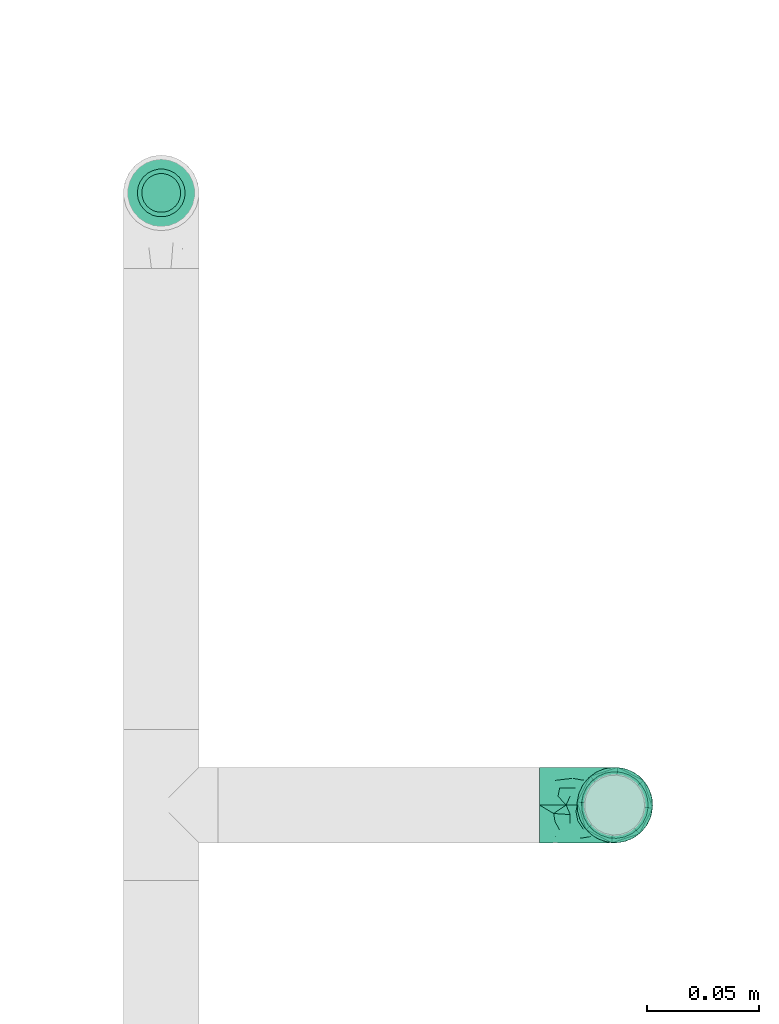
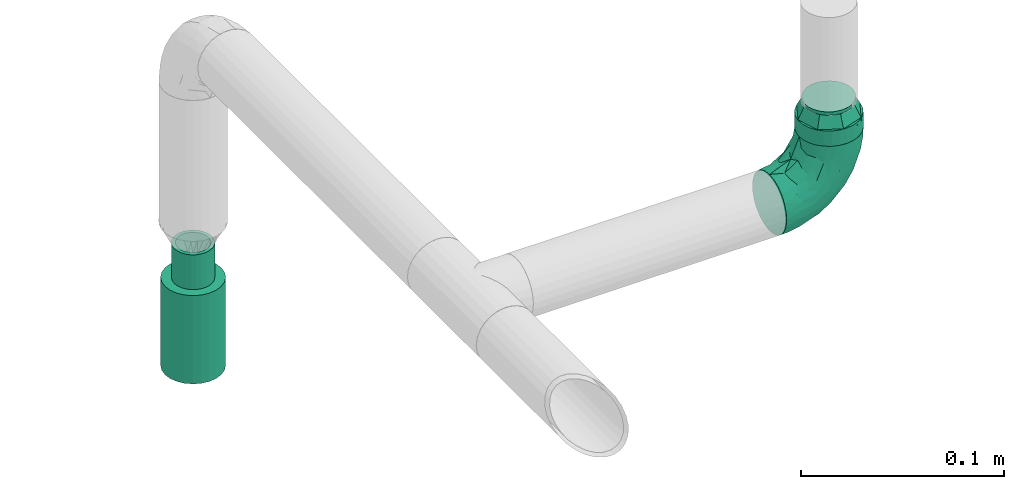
# One storey, part 38 of 43: 2 flow fittings, 2 flow segments, 1 flow terminal.
"""IFC2X3 building model written with IfcOpenShell, lengths in millimetres."""

from ifc_helpers import new_model, entity, si_unit, converted_unit, derived_unit, direction, frame, origin_with_axes, origin_2d_with_axis, place, context, subcontext, project, spatial, hollow_circle, extrude, open_shell, surface_model, source, transform, mapped, type_object, element, save


model = new_model("IFC2X3")

# Units and contexts
model_context = context("Model", 3, precision=0.01, world=frame((0.0, 4.29681676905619e-09, 0.0)), true_north=direction((4.01073788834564e-13, 1.0)))
plan_context = context("Plan", 3, precision=0.01, world=frame((0.0, 4.29681676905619e-09, 0.0)), true_north=direction((4.01073788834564e-13, 1.0)))
body_context = subcontext(model_context, "Body", "Model", "MODEL_VIEW")
ifc_project = project(units=[converted_unit("PLANEANGLEUNIT", "DEGREE", entity("IfcPositiveLengthMeasure", 0.0174532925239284), si_unit("PLANEANGLEUNIT", "RADIAN"), dimensions=[0, 0, 0, 0, 0, 0, 0]), si_unit("AREAUNIT", "SQUARE_METRE"), si_unit("LENGTHUNIT", "METRE", prefix="MILLI"), si_unit("MASSUNIT", "GRAM", prefix="KILO"), si_unit("POWERUNIT", "WATT"), si_unit("PRESSUREUNIT", "PASCAL"), si_unit("FORCEUNIT", "NEWTON", prefix="KILO"), si_unit("ELECTRICVOLTAGEUNIT", "VOLT"), si_unit("ELECTRICCURRENTUNIT", "AMPERE"), si_unit("THERMODYNAMICTEMPERATUREUNIT", "DEGREE_CELSIUS"), si_unit("TIMEUNIT", "SECOND"), si_unit("VOLUMEUNIT", "CUBIC_METRE"), derived_unit("LINEARVELOCITYUNIT", [(si_unit("LENGTHUNIT", "METRE"), 1), (si_unit("TIMEUNIT", "SECOND"), -1)]), derived_unit("VOLUMETRICFLOWRATEUNIT", [(si_unit("VOLUMEUNIT", "CUBIC_METRE"), 1), (si_unit("TIMEUNIT", "SECOND"), -1)]), derived_unit("THERMALTRANSMITTANCEUNIT", [(si_unit("POWERUNIT", "WATT"), 1), (si_unit("THERMODYNAMICTEMPERATUREUNIT", "KELVIN"), -1), (si_unit("AREAUNIT", "SQUARE_METRE"), -1)]), derived_unit("SOUNDPRESSUREUNIT", [(si_unit("PRESSUREUNIT", "PASCAL"), 1)])], contexts=[model_context, plan_context])

# Site, building, storey
site_placement = place(None, frame((0.0, -4.29681676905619e-09, 0.0), z_axis=(0.0, 0.0, 1.0), x_axis=(1.0, 0.0, 0.0)))
site = spatial("IfcSite", under=ifc_project, at=site_placement, CompositionType="ELEMENT")
building_placement = place(site_placement, frame((0.0, 4.29681676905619e-09, 0.0), z_axis=(0.0, 0.0, 1.0), x_axis=(1.0, 0.0, 0.0)))
building = spatial("IfcBuilding", under=site, at=building_placement, Name="mc-building", CompositionType="ELEMENT")
storey_placement = place(building_placement, frame((0.0, 0.0, 210900.0), z_axis=(0.0, 0.0, 1.0), x_axis=(1.0, 0.0, 0.0)))
storey = spatial("IfcBuildingStorey", under=building, at=storey_placement, Name="Nivå F", CompositionType="ELEMENT", Elevation=210900.0)

# Flow fittings
pipe_fitting_type_1 = type_object("IfcPipeFittingType", Name="magi_pipe_fe_elbow_short_001", PredefinedType="BEND")
shared_shape_1 = source(origin_with_axes(), body_context, "Body", "SurfaceModel", [
    surface_model("IfcShellBasedSurfaceModel", [(-33.8, 4.37404, -16.32415), (-33.8, 0.0, -16.9), (-33.8, 11.9501, -11.9501), (-33.8, 8.45, -14.63583), (-33.8, 16.32415, -4.37404), (-33.8, 14.63583, -8.45), (-33.8, -14.63583, -8.45), (-33.8, -16.32415, -4.37404), (-33.8, -8.45, 14.63583), (-33.8, -11.9501, -11.9501), (-33.8, -8.45, -14.63583), (-33.8, -4.37404, -16.32415), (-33.8, -16.9, 0.0), (-33.8, -16.32415, 4.37404), (-33.8, 11.9501, 11.9501), (-33.8, 14.63583, 8.45), (-33.8, 16.32415, 4.37404), (-33.8, 4.37404, 16.32415), (-33.8, 8.45, 14.63583), (-33.8, -14.63583, 8.45), (-33.8, -11.9501, 11.9501), (-33.8, -4.37404, 16.32415), (-33.8, 0.0, 16.9), (-33.8, 16.9, 0.0), (-11.9501, 33.8, -11.9501), (0.0, 33.8, -16.9), (-4.37404, 33.8, -16.32415), (-8.45, 33.8, -14.63583), (-14.63583, 33.8, -8.45), (-16.32415, 33.8, -4.37404), (14.63583, 33.8, -8.45), (8.45, 33.8, 14.63583), (16.32415, 33.8, -4.37404), (8.45, 33.8, -14.63583), (11.9501, 33.8, -11.9501), (4.37404, 33.8, -16.32415), (16.32415, 33.8, 4.37404), (16.9, 33.8, 0.0), (-11.9501, 33.8, 11.9501), (-16.32415, 33.8, 4.37404), (-14.63583, 33.8, 8.45), (-8.45, 33.8, 14.63583), (-4.37404, 33.8, 16.32415), (11.9501, 33.8, 11.9501), (14.63583, 33.8, 8.45), (0.0, 33.8, 16.9), (4.37404, 33.8, 16.32415), (-16.9, 33.8, 0.0), (-24.79389, -13.12945, 9.48721), (-22.19287, -9.75018, 12.59315), (-24.09897, -14.97035, 0.0), (-14.93934, -10.76256, 8.5297), (-22.46095, -14.75051, 5.27077), (14.75051, 22.46094, 5.27077), (11.9251, 13.23888, 4.33236), (13.04069, 14.39795, 0.0), (7.71387, 13.68847, 11.55891), (9.75018, 22.19287, 12.59315), (4.10169, 13.0571, 14.04018), (-24.84007, -6.39063, 15.2048), (-25.81779, -2.23879, 16.61097), (-23.66549, 2.59054, 16.87119), (-26.50418, 14.06512, 11.08152), (-24.21253, 17.66365, 7.72657), (-29.58514, 15.86957, 7.00283), (-6.17382, -7.5455, 0.0), (-13.23888, -11.9251, 4.33236), (-14.39795, -13.04069, 0.0), (-17.81434, 18.87373, 11.97104), (-6.30846, 29.15138, 15.82987), (-2.31622, 25.28002, 16.85849), (-29.23923, 10.23435, 13.77053), (-1.45439, -2.85688, 7.61475), (-0.28326, 0.34872, 10.09509), (-5.74484, -4.04709, 10.4122), (-4.41137, 11.31918, 16.59407), (-8.39727, 3.10034, 15.7812), (-1.72649, 9.1306, 15.53089), (-17.39909, 24.75344, 7.64977), (-26.19233, 20.0512, 0.0), (-28.14518, 17.29657, 4.25857), (-26.05147, 6.6281, 15.96447), (-5.87354, 16.61944, 16.86968), (-12.51807, 12.51807, 16.48937), (-10.06312, 7.38516, 16.81295), (-3.01882, 3.01882, 13.81718), (-13.0571, -4.10169, 14.04018), (-16.82553, -0.15166, 16.38038), (10.76256, 14.93934, 8.5297), (13.12945, 24.79389, 9.48721), (6.39063, 24.84007, 15.2048), (2.23879, 25.81779, 16.61097), (-13.68847, -7.71387, 11.55891), (14.97035, 24.09897, 0.0), (-7.30894, 22.89991, 16.09489), (-10.67958, 26.17414, 14.008), (-12.78295, 18.26924, 15.06066), (-13.88562, 22.45231, 12.93244), (-18.04944, 15.16501, 14.04434), (-23.11658, 20.08178, 4.02986), (-21.84989, 21.84989, 0.0), (-18.55817, 25.48277, 3.93065), (-13.95142, 26.94732, 11.03289), (-18.57098, 7.23906, 16.59756), (-16.58335, 4.14122, 16.89279), (-17.96666, 11.46709, 15.63151), (-9.84453, 17.54304, 16.18938), (0.15166, 16.82553, 16.38038), (-23.27207, 11.47201, 14.23154), (3.84842, 5.86994, 10.70473), (-8.0212, -7.54413, 7.93275), (1.00345, -2.19508, 4.57414), (5.13203, 3.01004, 5.90201), (5.24161, 1.7543, 2.53265), (8.70457, 7.04947, 3.99182), (-20.0512, 26.19233, 0.0), (8.4852, 8.76699, 7.09296), (-4.55488, -6.72064, 4.90681), (2.05031, -2.05031, 0.0), (7.5455, 6.17382, 0.0), (-26.75399, 2.1369, -16.845), (-14.61995, 24.73803, -11.27736), (-28.45274, -13.45335, -9.81895), (-26.00469, 6.63555, -15.96645), (-23.06726, 20.04573, -4.26202), (-13.80647, -4.26506, -14.17873), (-14.67501, -0.21081, -16.07388), (-6.7902, -0.2828, -13.8478), (-24.53586, 11.08096, -14.13417), (-26.72048, 14.00837, -11.05776), (10.0967, 24.44989, -12.75976), (5.83237, 21.40218, -15.03047), (6.66249, 28.54238, -15.38093), (-20.38182, 15.48705, -12.74596), (-15.65186, 19.64213, -13.01327), (-12.03528, 20.66498, -14.67665), (-15.61907, 15.61906, -14.83879), (-25.56551, -15.26206, 0.0), (-24.65452, -15.12934, -5.50955), (12.53268, 21.23441, -9.15363), (13.45335, 28.45274, -9.81895), (15.12934, 24.65452, -5.50955), (-7.35442, -8.31014, -5.65563), (-15.67504, -12.54494, -5.54878), (-24.44989, -10.0967, -12.75976), (0.16522, 0.41303, -9.71728), (-5.70658, -5.33066, -8.89288), (-5.13869, -2.37198, -11.53565), (-21.23441, -12.53268, -9.15363), (0.71146, 7.93863, -14.09382), (0.21081, 14.67501, -16.07388), (3.49291, 14.42772, -14.76381), (-24.89911, -2.13088, -16.591), (-28.54238, -6.66249, -15.38093), (-18.44386, -7.71663, -13.26957), (2.13088, 24.89911, -16.591), (-28.64342, 17.44413, -2.89318), (1.70017, -1.28722, -5.09504), (-16.57067, 26.81947, -7.36596), (-17.69055, 27.4263, -3.76405), (-12.89279, -9.7522, -8.66343), (-5.96611, 5.96611, -15.95814), (-20.53709, 20.09345, -8.28985), (-2.1369, 26.75399, -16.845), (-6.89872, 24.58781, -16.02578), (-10.60739, 26.53157, -13.98044), (-21.40218, -5.83237, -15.03047), (2.93192, 5.89627, -11.55917), (6.89393, 12.61842, -11.82233), (5.58056, 5.95325, -8.79455), (-3.99512, 18.61798, -16.89635), (-9.1383, 9.86148, -16.89041), (-9.99983, 16.02119, -16.39699), (-16.68576, 9.78031, -16.34199), (-27.01915, 16.61158, -7.12979), (15.26206, 25.56551, 0.0), (-18.61798, 3.99512, -16.89635), (-19.37495, 27.82495, 0.0), (9.7522, 12.89279, -8.66343), (-12.61842, -6.89393, -11.82233), (8.31014, 7.35442, -5.65563), (-18.84705, 19.14018, -10.96545), (12.54494, 15.67504, -5.54878)], [open_shell([[[0, 1, 2]], [[3, 0, 2]], [[4, 5, 2]], [[6, 2, 1]], [[2, 7, 8]], [[9, 6, 10]], [[1, 11, 10]], [[10, 6, 1]], [[2, 6, 7]], [[12, 13, 7]], [[4, 2, 14]], [[4, 15, 16]], [[4, 14, 15]], [[17, 18, 14]], [[14, 2, 8]], [[17, 14, 8]], [[19, 20, 13]], [[20, 7, 13]], [[21, 22, 8]], [[20, 8, 7]], [[8, 22, 17]], [[4, 16, 23]], [[24, 25, 26]], [[24, 26, 27]], [[24, 28, 29]], [[25, 24, 30]], [[31, 32, 24]], [[33, 30, 34]], [[33, 35, 25]], [[25, 30, 33]], [[32, 30, 24]], [[32, 36, 37]], [[38, 24, 29]], [[39, 40, 29]], [[40, 38, 29]], [[38, 41, 42]], [[38, 31, 24]], [[31, 38, 42]], [[36, 43, 44]], [[36, 32, 43]], [[31, 45, 46]], [[32, 31, 43]], [[42, 45, 31]], [[39, 29, 47]], [[20, 48, 49]], [[13, 12, 50]], [[51, 48, 52]], [[53, 54, 55]], [[48, 20, 19]], [[13, 52, 19]], [[56, 57, 58]], [[49, 8, 20]], [[49, 59, 8]], [[22, 60, 61]], [[62, 63, 64]], [[65, 66, 67]], [[57, 43, 31]], [[62, 68, 63]], [[42, 69, 70]], [[18, 71, 14]], [[21, 60, 22]], [[72, 73, 74]], [[75, 76, 77]], [[14, 62, 15]], [[40, 39, 78]], [[79, 23, 80]], [[64, 16, 15]], [[22, 61, 17]], [[17, 81, 18]], [[82, 83, 84]], [[74, 85, 86]], [[59, 86, 87]], [[88, 89, 57]], [[90, 31, 46]], [[44, 53, 36]], [[46, 45, 91]], [[54, 53, 88]], [[44, 89, 53]], [[92, 86, 49]], [[89, 44, 43]], [[8, 59, 21]], [[53, 55, 93]], [[93, 36, 53]], [[66, 52, 67]], [[94, 82, 70]], [[95, 96, 94]], [[97, 98, 96]], [[79, 99, 100]], [[41, 38, 95]], [[101, 100, 99]], [[68, 78, 63]], [[42, 41, 69]], [[23, 16, 80]], [[95, 94, 69]], [[78, 101, 99]], [[38, 102, 95]], [[70, 45, 42]], [[97, 95, 102]], [[13, 50, 52]], [[90, 57, 31]], [[57, 90, 58]], [[81, 17, 61]], [[103, 104, 84]], [[105, 81, 103]], [[38, 40, 102]], [[106, 96, 83]], [[94, 106, 82]], [[91, 70, 107]], [[71, 62, 14]], [[62, 108, 98]], [[86, 59, 49]], [[67, 52, 50]], [[60, 59, 87]], [[92, 49, 51]], [[86, 85, 76]], [[91, 90, 46]], [[37, 36, 93]], [[107, 77, 58]], [[107, 58, 90]], [[58, 85, 109]], [[110, 74, 92]], [[72, 74, 110]], [[66, 51, 52]], [[72, 111, 112]], [[113, 114, 112]], [[56, 88, 57]], [[52, 48, 19]], [[49, 48, 51]], [[57, 89, 43]], [[53, 89, 88]], [[103, 81, 61]], [[71, 81, 108]], [[16, 64, 80]], [[63, 78, 99]], [[47, 115, 101]], [[101, 115, 100]], [[40, 78, 102]], [[68, 102, 78]], [[97, 96, 95]], [[105, 98, 108]], [[103, 84, 83]], [[107, 70, 82]], [[76, 84, 87]], [[82, 84, 75]], [[70, 91, 45]], [[90, 91, 107]], [[59, 60, 21]], [[61, 60, 87]], [[73, 85, 74]], [[109, 112, 116]], [[103, 61, 104]], [[105, 103, 83]], [[96, 105, 83]], [[81, 105, 108]], [[96, 98, 105]], [[62, 98, 68]], [[61, 87, 104]], [[87, 84, 104]], [[86, 76, 87]], [[77, 76, 85]], [[58, 77, 85]], [[75, 77, 107]], [[82, 75, 107]], [[76, 75, 84]], [[81, 71, 18]], [[62, 71, 108]], [[95, 69, 41]], [[70, 69, 94]], [[62, 64, 15]], [[80, 63, 99]], [[63, 80, 64]], [[80, 99, 79]], [[66, 65, 117]], [[110, 66, 117]], [[112, 114, 116]], [[118, 117, 65]], [[110, 92, 51]], [[112, 111, 113]], [[119, 55, 54]], [[74, 86, 92]], [[58, 109, 56]], [[116, 56, 109]], [[66, 110, 51]], [[72, 110, 117]], [[111, 72, 117]], [[73, 112, 109]], [[117, 118, 111]], [[113, 111, 118]], [[118, 119, 113]], [[114, 119, 54]], [[119, 114, 113]], [[116, 54, 88]], [[54, 116, 114]], [[116, 88, 56]], [[112, 73, 72]], [[85, 73, 109]], [[78, 39, 101]], [[47, 101, 39]], [[102, 68, 97]], [[97, 68, 98]], [[82, 106, 83]], [[94, 96, 106]], [[0, 120, 1]], [[28, 24, 121]], [[9, 122, 6]], [[3, 123, 0]], [[100, 124, 79]], [[125, 126, 127]], [[128, 2, 129]], [[130, 131, 132]], [[128, 129, 133]], [[134, 135, 136]], [[128, 3, 2]], [[67, 137, 138]], [[139, 140, 141]], [[138, 7, 6]], [[142, 65, 143]], [[144, 9, 10]], [[145, 146, 147]], [[143, 138, 148]], [[149, 150, 151]], [[152, 11, 1]], [[10, 153, 144]], [[148, 144, 154]], [[153, 10, 11]], [[35, 155, 25]], [[23, 79, 156]], [[146, 157, 142]], [[158, 159, 29]], [[143, 160, 142]], [[161, 150, 149]], [[29, 28, 158]], [[121, 162, 158]], [[33, 34, 130]], [[25, 163, 26]], [[26, 163, 164]], [[140, 34, 30]], [[24, 27, 165]], [[124, 159, 162]], [[155, 35, 132]], [[153, 152, 166]], [[123, 3, 128]], [[167, 168, 169]], [[170, 155, 150]], [[26, 164, 27]], [[132, 35, 33]], [[140, 130, 34]], [[166, 152, 126]], [[133, 134, 136]], [[2, 5, 129]], [[168, 131, 130]], [[30, 32, 141]], [[170, 171, 172]], [[173, 123, 128]], [[156, 174, 4]], [[165, 27, 164]], [[172, 164, 170]], [[134, 165, 135]], [[122, 138, 6]], [[137, 12, 7]], [[32, 37, 175]], [[168, 130, 139]], [[150, 155, 131]], [[163, 155, 170]], [[151, 168, 149]], [[150, 161, 171]], [[166, 125, 154]], [[122, 144, 148]], [[120, 152, 1]], [[176, 171, 126]], [[176, 126, 152]], [[126, 161, 127]], [[160, 143, 148]], [[137, 7, 138]], [[32, 175, 141]], [[55, 141, 175]], [[174, 129, 5]], [[128, 133, 136]], [[173, 128, 136]], [[120, 123, 176]], [[121, 158, 28]], [[159, 100, 177]], [[164, 172, 135]], [[121, 24, 165]], [[159, 47, 29]], [[79, 124, 156]], [[124, 162, 174]], [[159, 124, 100]], [[178, 169, 168]], [[127, 161, 149]], [[145, 169, 157]], [[146, 142, 160]], [[127, 149, 167]], [[127, 179, 125]], [[129, 174, 162]], [[5, 4, 174]], [[157, 65, 142]], [[67, 138, 143]], [[123, 120, 0]], [[152, 120, 176]], [[155, 163, 25]], [[164, 163, 170]], [[170, 150, 171]], [[173, 136, 172]], [[126, 171, 161]], [[173, 171, 176]], [[171, 173, 172]], [[123, 173, 176]], [[148, 179, 160]], [[127, 147, 179]], [[179, 146, 160]], [[157, 146, 145]], [[169, 178, 180]], [[168, 139, 178]], [[157, 169, 180]], [[169, 145, 167]], [[167, 145, 147]], [[149, 168, 167]], [[162, 181, 129]], [[181, 121, 134]], [[179, 147, 146]], [[167, 147, 127]], [[181, 134, 133]], [[165, 134, 121]], [[164, 135, 165]], [[172, 136, 135]], [[129, 181, 133]], [[121, 181, 162]], [[159, 158, 162]], [[47, 159, 177]], [[174, 156, 124]], [[23, 156, 4]], [[130, 132, 33]], [[155, 132, 131]], [[141, 140, 30]], [[130, 140, 139]], [[152, 153, 11]], [[144, 153, 166]], [[144, 122, 9]], [[138, 122, 148]], [[150, 131, 151]], [[157, 119, 118]], [[67, 143, 65]], [[168, 151, 131]], [[119, 157, 180]], [[157, 118, 65]], [[154, 125, 179]], [[126, 125, 166]], [[148, 154, 179]], [[166, 154, 144]], [[139, 182, 178]], [[141, 182, 139]], [[178, 182, 180]], [[182, 55, 119]], [[141, 55, 182]], [[182, 119, 180]]])]),
])
flow_fitting_1_placement = place(storey_placement, frame((609676.69057, 697917.47996, 2660.0), z_axis=(0.0, 1.0, 0.0), x_axis=(0.0, 0.0, -1.0)))
element("IfcFlowFitting", 1, at=flow_fitting_1_placement, inside=storey, type_object=pipe_fitting_type_1, Name="magi_pipe_fe_elbow_short_001", context=body_context, shape_type="MappedRepresentation", body=[
    mapped(shared_shape_1, transform((0.0, 0.0, 0.0), scale=1.0)),
])
pipe_fitting_type_2 = type_object("IfcPipeFittingType", Name="magi_pipe_fe_reducer_centric_short_NOR", PredefinedType="TRANSITION")
shared_shape_2 = source(origin_with_axes(), body_context, "Body", "SurfaceModel", [
    surface_model("IfcShellBasedSurfaceModel", [(-2.0, 11.9501, 11.9501), (-2.0, 0.0, 16.9), (-2.0, 4.37404, 16.32415), (-2.0, 8.45, 14.63583), (-2.0, 14.63583, 8.45), (-2.0, 16.32415, 4.37404), (-2.0, -16.32415, 4.37404), (-2.0, -8.45, 14.63583), (-2.0, -14.63583, 8.45), (-2.0, -11.9501, 11.9501), (-2.0, -4.37404, 16.32415), (-2.0, -16.32415, -4.37404), (-2.0, -16.9, 0.0), (-2.0, -8.45, -14.63583), (-2.0, 16.32415, -4.37404), (-2.0, 11.9501, -11.9501), (-2.0, 14.63583, -8.45), (-2.0, 8.45, -14.63583), (-2.0, 4.37404, -16.32415), (-2.0, 0.0, -16.9), (-2.0, -11.9501, -11.9501), (-2.0, -14.63583, -8.45), (-2.0, -4.37404, -16.32415), (-2.0, 16.9, 0.0), (0.0, 4.37404, -16.32415), (0.0, 8.45, -14.63583), (0.0, 11.9501, -11.9501), (0.0, 0.0, -16.9), (0.0, 16.32415, -4.37404), (0.0, 16.32415, 4.37404), (0.0, 14.63583, -8.45), (0.0, -8.45, -14.63583), (0.0, -4.37404, -16.32415), (0.0, -11.9501, -11.9501), (0.0, -16.32415, -4.37404), (0.0, -14.63583, -8.45), (0.0, -16.32415, 4.37404), (0.0, 16.9, 0.0), (0.0, 14.63583, 8.45), (0.0, 11.9501, 11.9501), (0.0, 4.37404, 16.32415), (0.0, 8.45, 14.63583), (0.0, 0.0, 16.9), (0.0, -14.63583, 8.45), (0.0, -16.9, 0.0), (0.0, -8.45, 14.63583), (0.0, -11.9501, 11.9501), (0.0, -4.37404, 16.32415), (9.0, 12.94341, -3.46818), (9.0, 3.46818, -12.94341), (9.0, 6.7, -11.60474), (9.0, 9.47523, -9.47523), (9.0, -6.7, -11.60474), (9.0, -12.94341, 3.46818), (9.0, 11.60474, -6.7), (9.0, 0.0, -13.4), (9.0, -3.46818, -12.94341), (9.0, -9.47523, -9.47523), (9.0, -12.94341, -3.46818), (9.0, -11.60474, -6.7), (9.0, 13.4, 0.0), (9.0, 12.94341, 3.46818), (9.0, 11.60474, 6.7), (9.0, 9.47523, 9.47523), (9.0, 0.0, 13.4), (9.0, 6.7, 11.60474), (9.0, 3.46818, 12.94341), (9.0, -6.7, 11.60474), (9.0, -9.47523, 9.47523), (9.0, -11.60474, 6.7), (9.0, -13.4, 0.0), (9.0, -3.46818, 12.94341), (7.0, 0.0, 13.4), (7.0, 3.46818, 12.94341), (7.0, 6.7, 11.60474), (7.0, -3.46818, 12.94341), (7.0, 9.47523, 9.47523), (7.0, 11.60474, 6.7), (7.0, 12.94341, 3.46818), (7.0, -12.94341, 3.46818), (7.0, -9.47523, 9.47523), (7.0, -6.7, 11.60474), (7.0, -11.60474, 6.7), (7.0, -12.94341, -3.46818), (7.0, -13.4, 0.0), (7.0, -6.7, -11.60474), (7.0, 12.94341, -3.46818), (7.0, 9.47523, -9.47523), (7.0, 11.60474, -6.7), (7.0, 6.7, -11.60474), (7.0, 3.46818, -12.94341), (7.0, -9.47523, -9.47523), (7.0, -11.60474, -6.7), (7.0, 0.0, -13.4), (7.0, -3.46818, -12.94341), (7.0, 13.4, 0.0), (0.0, 13.18758, -8.96258), (0.0, 14.42505, -5.97505), (7.0, 10.491, -7.02294), (7.0, 11.50677, -4.57065), (0.0, 15.66253, -2.98753), (7.0, 12.45339, -2.28533), (0.0, 2.98753, -15.66253), (0.0, 5.97505, -14.42505), (0.0, 8.96258, -13.18758), (7.0, 4.73762, -11.43761), (7.0, 7.10642, -10.45642), (7.0, 2.36881, -12.41881), (0.0, -14.42505, -5.97505), (7.0, -11.43761, -4.73762), (7.0, -12.41881, -2.36881), (7.0, -2.36881, -12.41881), (7.0, -10.45642, -7.10642), (0.0, -15.70614, -2.88224), (0.0, -13.18758, -8.96258), (7.0, -4.73762, -11.43761), (7.0, -7.10642, -10.45642), (0.0, -5.97505, -14.42505), (0.0, -2.98753, -15.66253), (0.0, -8.96258, -13.18758), (0.0, -13.18758, 8.96258), (0.0, -14.42505, 5.97505), (7.0, -10.491, 7.02294), (7.0, -11.50677, 4.57065), (0.0, -15.66253, 2.98753), (7.0, -12.45339, 2.28533), (0.0, -2.98753, 15.66253), (0.0, -5.97505, 14.42505), (0.0, -8.96258, 13.18758), (7.0, -4.73762, 11.43761), (7.0, -7.10642, 10.45642), (7.0, -2.36881, 12.41881), (0.0, 14.42505, 5.97505), (7.0, 11.43761, 4.73762), (7.0, 12.41881, 2.36881), (7.0, 2.36881, 12.41881), (7.0, 10.45642, 7.10642), (0.0, 15.70614, 2.88224), (0.0, 13.18758, 8.96258), (7.0, 4.73762, 11.43761), (7.0, 7.10642, 10.45642), (0.0, 5.97505, 14.42505), (0.0, 2.98753, 15.66253), (0.0, 8.96258, 13.18758)], [open_shell([[[0, 1, 2]], [[0, 2, 3]], [[0, 4, 5]], [[0, 5, 1]], [[1, 5, 6]], [[7, 8, 9]], [[7, 10, 1]], [[8, 7, 1]], [[1, 6, 8]], [[6, 11, 12]], [[6, 5, 13]], [[5, 14, 15]], [[15, 14, 16]], [[15, 17, 18]], [[13, 5, 15]], [[19, 15, 18]], [[11, 20, 21]], [[20, 11, 13]], [[13, 19, 22]], [[11, 6, 13]], [[15, 19, 13]], [[5, 23, 14]], [[24, 25, 26]], [[27, 24, 26]], [[26, 28, 29]], [[28, 26, 30]], [[26, 29, 31]], [[27, 31, 32]], [[27, 26, 31]], [[33, 34, 35]], [[34, 33, 31]], [[31, 36, 34]], [[29, 28, 37]], [[29, 38, 39]], [[29, 39, 40]], [[40, 36, 31]], [[40, 39, 41]], [[36, 40, 42]], [[42, 43, 36]], [[44, 34, 36]], [[43, 45, 46]], [[43, 42, 45]], [[45, 42, 47]], [[31, 29, 40]], [[11, 34, 12]], [[21, 35, 11]], [[31, 20, 13]], [[21, 20, 33]], [[32, 13, 22]], [[11, 35, 34]], [[34, 44, 12]], [[32, 31, 13]], [[33, 20, 31]], [[33, 35, 21]], [[27, 32, 22]], [[22, 19, 27]], [[18, 24, 19]], [[17, 25, 18]], [[30, 15, 16]], [[17, 15, 26]], [[28, 16, 14]], [[17, 26, 25]], [[25, 24, 18]], [[37, 28, 14]], [[30, 16, 28]], [[30, 26, 15]], [[23, 37, 14]], [[19, 24, 27]], [[5, 29, 23]], [[4, 38, 5]], [[41, 0, 3]], [[4, 0, 39]], [[40, 3, 2]], [[5, 38, 29]], [[29, 37, 23]], [[40, 41, 3]], [[39, 0, 41]], [[39, 38, 4]], [[42, 40, 2]], [[2, 1, 42]], [[10, 47, 1]], [[7, 45, 10]], [[43, 9, 8]], [[7, 9, 46]], [[36, 8, 6]], [[7, 46, 45]], [[45, 47, 10]], [[44, 36, 6]], [[43, 8, 36]], [[43, 46, 9]], [[12, 44, 6]], [[1, 47, 42]], [[33, 44, 27]], [[42, 39, 46]], [[39, 27, 44]], [[44, 46, 39]], [[48, 49, 50]], [[48, 50, 51]], [[52, 49, 53]], [[48, 51, 54]], [[49, 48, 53]], [[55, 52, 56]], [[55, 49, 52]], [[57, 58, 59]], [[53, 58, 57]], [[57, 52, 53]], [[48, 60, 53]], [[61, 62, 63]], [[61, 63, 64]], [[65, 66, 64]], [[65, 64, 63]], [[61, 64, 67]], [[53, 68, 69]], [[70, 58, 53]], [[53, 67, 68]], [[53, 61, 67]], [[71, 67, 64]], [[53, 60, 61]], [[72, 73, 74]], [[75, 72, 74]], [[76, 77, 78]], [[74, 76, 75]], [[78, 79, 76]], [[75, 80, 81]], [[80, 75, 79]], [[80, 79, 82]], [[75, 76, 79]], [[79, 83, 84]], [[79, 78, 85]], [[86, 87, 78]], [[87, 86, 88]], [[89, 85, 78]], [[78, 87, 89]], [[85, 89, 90]], [[83, 91, 92]], [[83, 79, 91]], [[85, 93, 94]], [[79, 85, 91]], [[90, 93, 85]], [[95, 86, 78]], [[83, 58, 84]], [[92, 59, 83]], [[52, 91, 85]], [[92, 91, 57]], [[56, 85, 94]], [[83, 59, 58]], [[58, 70, 84]], [[56, 52, 85]], [[57, 91, 52]], [[57, 59, 92]], [[55, 56, 94]], [[94, 93, 55]], [[90, 49, 93]], [[89, 50, 90]], [[54, 87, 88]], [[89, 87, 51]], [[48, 88, 86]], [[89, 51, 50]], [[50, 49, 90]], [[60, 48, 86]], [[54, 88, 48]], [[54, 51, 87]], [[95, 60, 86]], [[93, 49, 55]], [[78, 61, 95]], [[77, 62, 78]], [[65, 76, 74]], [[77, 76, 63]], [[66, 74, 73]], [[78, 62, 61]], [[61, 60, 95]], [[66, 65, 74]], [[63, 76, 65]], [[63, 62, 77]], [[64, 66, 73]], [[73, 72, 64]], [[75, 71, 72]], [[81, 67, 75]], [[69, 80, 82]], [[81, 80, 68]], [[53, 82, 79]], [[81, 68, 67]], [[67, 71, 75]], [[70, 53, 79]], [[69, 82, 53]], [[69, 68, 80]], [[84, 70, 79]], [[72, 71, 64]], [[72, 80, 95]], [[95, 76, 72]], [[80, 91, 95]], [[91, 93, 95]], [[87, 95, 93]], [[80, 84, 91]], [[26, 27, 39]], [[39, 37, 26]], [[96, 97, 98]], [[99, 100, 101]], [[37, 95, 101]], [[93, 27, 102]], [[103, 104, 105]], [[104, 26, 106]], [[87, 26, 96]], [[103, 107, 102]], [[108, 109, 110]], [[37, 101, 100]], [[27, 93, 111]], [[112, 33, 91]], [[110, 84, 113]], [[109, 114, 112]], [[33, 112, 114]], [[115, 116, 117]], [[115, 118, 111]], [[93, 102, 107]], [[116, 91, 119]], [[27, 111, 118]], [[97, 99, 98]], [[87, 96, 98]], [[100, 99, 97]], [[26, 87, 106]], [[105, 104, 106]], [[107, 103, 105]], [[84, 44, 113]], [[108, 110, 113]], [[114, 109, 108]], [[91, 33, 119]], [[117, 116, 119]], [[118, 115, 117]], [[120, 121, 122]], [[123, 124, 125]], [[44, 84, 125]], [[72, 42, 126]], [[127, 128, 129]], [[128, 46, 130]], [[80, 46, 120]], [[127, 131, 126]], [[132, 133, 134]], [[44, 125, 124]], [[42, 72, 135]], [[136, 39, 76]], [[134, 95, 137]], [[133, 138, 136]], [[39, 136, 138]], [[139, 140, 141]], [[139, 142, 135]], [[72, 126, 131]], [[140, 76, 143]], [[42, 135, 142]], [[121, 123, 122]], [[80, 120, 122]], [[124, 123, 121]], [[46, 80, 130]], [[129, 128, 130]], [[131, 127, 129]], [[95, 37, 137]], [[132, 134, 137]], [[138, 133, 132]], [[76, 39, 143]], [[141, 140, 143]], [[142, 139, 141]]])]),
])
flow_fitting_2_placement = place(storey_placement, frame((609676.60792, 697917.4865, 2702.99278), z_axis=(0.996846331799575, -0.0788420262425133, 0.00901807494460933), x_axis=(-0.00899000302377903, 0.00071100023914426, 0.999959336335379)))
element("IfcFlowFitting", 2, at=flow_fitting_2_placement, inside=storey, type_object=pipe_fitting_type_2, Name="magi_pipe_fe_reducer_centric_short_NOR", context=body_context, shape_type="MappedRepresentation", body=[
    mapped(shared_shape_2, transform((0.0, 0.0, 0.0), scale=1.0)),
])

# Flow segments
pipe_segment_type = type_object("IfcPipeSegmentType", Name="Stålrør normaltykke", PredefinedType="RIGIDSEGMENT")
shared_shape_3 = source(origin_with_axes(), body_context, "Body", "SweptSolid", [
    extrude(hollow_circle(Radius=16.9, WallThickness=2.0, at=origin_2d_with_axis()), frame((0.0, 0.0, 0.0), z_axis=(1.0, 0.0, 0.0), x_axis=(0.0, 1.0, 0.0)), (0.0, 0.0, 1.0), 9.2),
])
flow_segment_1_placement = place(storey_placement, frame((609676.69057, 697917.47996, 2693.79999999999), z_axis=(0.0788449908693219, 0.996886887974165, 2.98917911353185e-08), x_axis=(-0.00899000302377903, 0.00071100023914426, 0.999959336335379)))
element("IfcFlowSegment", 3, at=flow_segment_1_placement, inside=storey, type_object=pipe_segment_type, Name="Stålrør normaltykke", context=body_context, shape_type="MappedRepresentation", body=[
    mapped(shared_shape_3, transform((0.0, 0.0, 0.0), scale=1.0)),
])
shared_shape_4 = source(origin_with_axes(), body_context, "Body", "SweptSolid", [
    extrude(hollow_circle(Radius=10.7, WallThickness=2.0, at=origin_2d_with_axis()), frame((0.0, 0.0, 0.0), z_axis=(1.0, 0.0, 0.0), x_axis=(0.0, 1.0, 0.0)), (0.0, 0.0, 1.0), 23.8),
])
flow_segment_2_placement = place(storey_placement, frame((609473.7578, 698191.25347, 2505.5), z_axis=(0.0, -1.0, 0.0), x_axis=(0.0, 0.0, 1.0)))
element("IfcFlowSegment", 4, at=flow_segment_2_placement, inside=storey, type_object=pipe_segment_type, Name="Stålrør normaltykke", context=body_context, shape_type="MappedRepresentation", body=[
    mapped(shared_shape_4, transform((0.0, 0.0, 0.0), scale=1.0)),
])

# Flow terminal
fire_suppression_terminal_type = type_object("IfcFireSuppressionTerminalType", Name="SP-15-K80-68DGR-STD-HIMLING", PredefinedType="NOTDEFINED")
shared_shape_5 = source(origin_with_axes(), body_context, "Body", "SurfaceModel", [
    surface_model("IfcShellBasedSurfaceModel", [(4.1411, -15.45481, 53.0), (8.0, -13.85641, 53.0), (11.31371, -11.31371, 53.0), (-8.0, -13.85641, 53.0), (15.45481, -4.1411, 53.0), (16.0, 0.0, 53.0), (13.85641, -8.0, 53.0), (0.0, -16.0, 53.0), (-4.1411, -15.45481, 53.0), (-13.85641, -8.0, 53.0), (-11.31371, -11.31371, 53.0), (-15.45481, -4.1411, 53.0), (15.45481, 4.1411, 53.0), (13.85641, 8.0, 53.0), (11.31371, 11.31371, 53.0), (-4.1411, 15.45481, 53.0), (8.0, 13.85641, 53.0), (4.1411, 15.45481, 53.0), (0.0, 16.0, 53.0), (-13.85641, 8.0, 53.0), (-15.45481, 4.1411, 53.0), (-16.0, 0.0, 53.0), (-11.31371, 11.31371, 53.0), (-8.0, 13.85641, 53.0), (0.0, 16.0, 0.0), (4.1411, 15.45481, 0.0), (8.0, 13.85641, 0.0), (-4.1411, 15.45481, 0.0), (11.31371, 11.31371, 0.0), (13.85641, 8.0, 0.0), (15.45481, 4.1411, 0.0), (-15.45481, -4.1411, 0.0), (-11.31371, 11.31371, 0.0), (-8.0, 13.85641, 0.0), (-13.85641, 8.0, 0.0), (-15.45481, 4.1411, 0.0), (-16.0, 0.0, 0.0), (4.1411, -15.45481, 0.0), (16.0, 0.0, 0.0), (15.45481, -4.1411, 0.0), (13.85641, -8.0, 0.0), (11.31371, -11.31371, 0.0), (8.0, -13.85641, 0.0), (-8.0, -13.85641, 0.0), (-13.85641, -8.0, 0.0), (-11.31371, -11.31371, 0.0), (0.0, -16.0, 0.0), (-4.1411, -15.45481, 0.0)], [open_shell([[[0, 1, 2]], [[3, 0, 2]], [[4, 5, 2]], [[4, 2, 6]], [[3, 2, 5]], [[7, 3, 8]], [[7, 0, 3]], [[3, 9, 10]], [[9, 3, 11]], [[5, 11, 3]], [[5, 12, 11]], [[12, 13, 14]], [[15, 12, 14]], [[16, 17, 18]], [[14, 16, 15]], [[18, 15, 16]], [[11, 19, 20]], [[21, 11, 20]], [[22, 15, 23]], [[15, 22, 19]], [[19, 11, 15]], [[11, 12, 15]], [[24, 25, 26]], [[27, 24, 26]], [[28, 29, 30]], [[27, 26, 28]], [[27, 28, 31]], [[27, 32, 33]], [[32, 27, 34]], [[34, 31, 35]], [[31, 34, 27]], [[35, 31, 36]], [[28, 30, 31]], [[37, 38, 39]], [[37, 39, 40]], [[41, 42, 37]], [[41, 37, 40]], [[38, 37, 43]], [[44, 43, 45]], [[43, 44, 31]], [[43, 46, 47]], [[43, 31, 38]], [[37, 46, 43]], [[38, 31, 30]], [[11, 31, 44]], [[45, 9, 44]], [[3, 43, 47]], [[45, 43, 10]], [[8, 47, 46]], [[31, 21, 36]], [[31, 11, 21]], [[44, 9, 11]], [[45, 10, 9]], [[3, 10, 43]], [[47, 8, 3]], [[46, 7, 8]], [[0, 37, 42]], [[41, 1, 42]], [[6, 40, 39]], [[41, 40, 2]], [[4, 39, 38]], [[37, 0, 7]], [[42, 1, 0]], [[41, 2, 1]], [[40, 6, 2]], [[4, 6, 39]], [[38, 5, 4]], [[37, 7, 46]], [[12, 38, 30]], [[13, 30, 29]], [[16, 26, 25]], [[17, 25, 24]], [[30, 13, 12]], [[12, 5, 38]], [[28, 14, 13]], [[28, 26, 14]], [[14, 26, 16]], [[25, 17, 16]], [[28, 13, 29]], [[24, 18, 17]], [[15, 27, 33]], [[32, 23, 33]], [[19, 34, 35]], [[32, 34, 22]], [[20, 35, 36]], [[27, 15, 18]], [[33, 23, 15]], [[32, 22, 23]], [[34, 19, 22]], [[20, 19, 35]], [[36, 21, 20]], [[27, 18, 24]]])]),
])
flow_terminal_placement = place(storey_placement, frame((609473.7578, 698191.25347, 2508.54800000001), z_axis=(0.0, 0.0, -1.0), x_axis=(-1.0, 0.0, 0.0)))
element("IfcFlowTerminal", 5, at=flow_terminal_placement, inside=storey, type_object=fire_suppression_terminal_type, Name="SP-15-K80-68DGR-STD-HIMLING", context=body_context, shape_type="MappedRepresentation", body=[
    mapped(shared_shape_5, transform((0.0, 0.0, 0.0), scale=1.0)),
])

save(model, "model.ifc")
